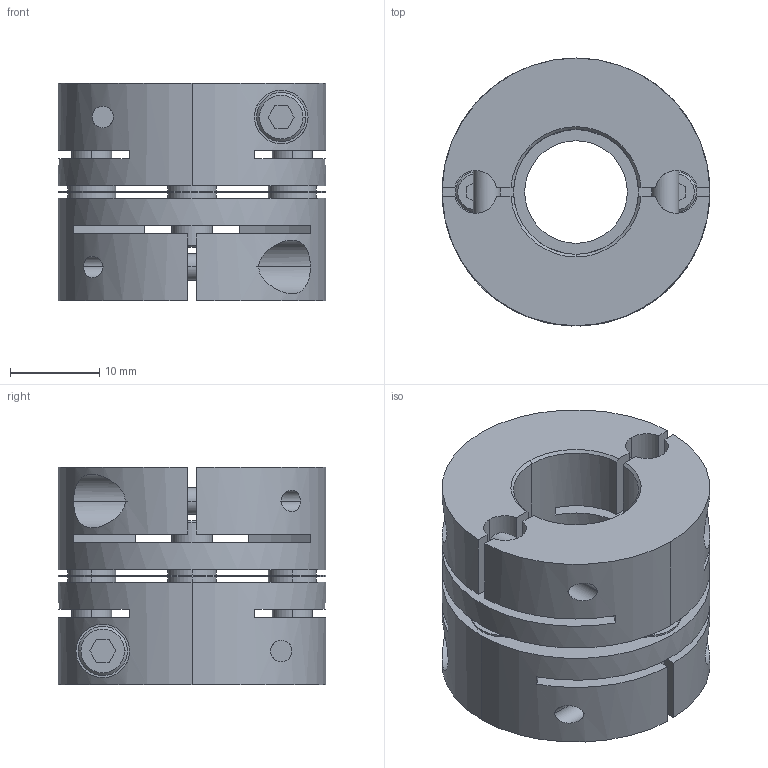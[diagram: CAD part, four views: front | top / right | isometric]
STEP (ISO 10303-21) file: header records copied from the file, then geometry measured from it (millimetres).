
FILE_DESCRIPTION((''),'2;1');
FILE_NAME('LAS-30C-12×14.stp','2011-08-10T13:22:28',(''),(''),'AutoCAD STEP 2000i','AutoCAD 2000i',', , ');
FILE_SCHEMA(('CONFIG_CONTROL_DESIGN'));
Length unit declared in the file: millimetre
Products named in the file (7): LAS-30C-10×10; 忣兜1; LA-3002-D10-1; LA-3002-D10; LA-3002-D06-1; LA-3002-D06; LAS30-ITA
Assembly tree (6 placements, depth 2):
  LAS-30C-10×10
    忣兜1
    LA-3002-D10-1
    LA-3002-D10
    LA-3002-D06-1
    LA-3002-D06
    LAS30-ITA
Bounding box: 30 x 30 x 24.4 mm (x, y, z)
Volume: 11602.2 mm3; surface area: 8866.6 mm2
Topology: 1 solids, 1 shells, 244 faces, 648 edges, 424 vertices
Faces by surface type: plane 112, cylinder 104, cone 28
Entity records: 8527 total; most frequent: CARTESIAN_POINT 2123, DIRECTION 1330, ORIENTED_EDGE 1296, EDGE_CURVE 648, AXIS2_PLACEMENT_3D 487, VERTEX_POINT 424, VECTOR 356, LINE 356
